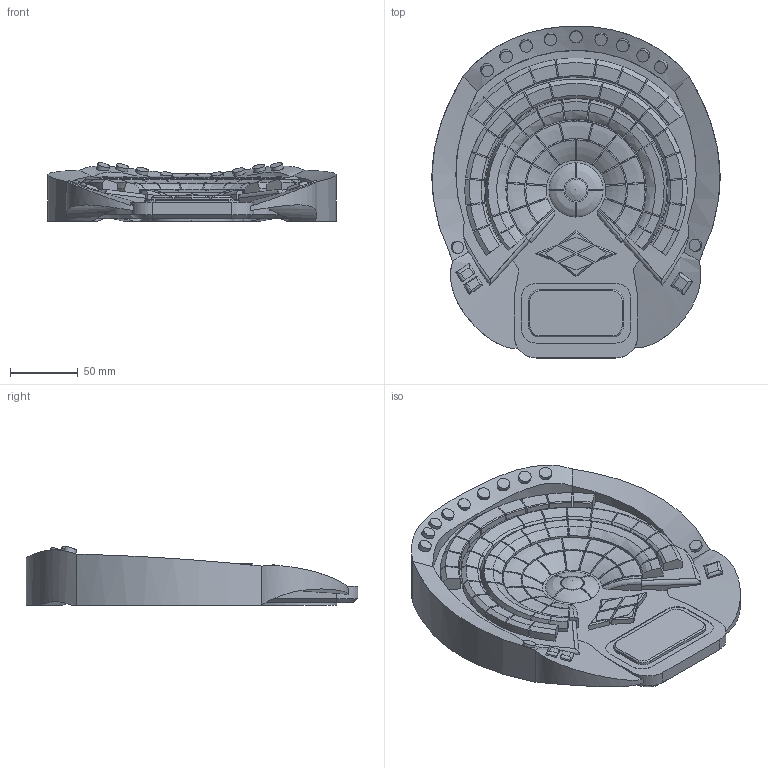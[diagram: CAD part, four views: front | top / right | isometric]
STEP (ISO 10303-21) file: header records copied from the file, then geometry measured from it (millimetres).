
FILE_DESCRIPTION(('FreeCAD Model'),'2;1');
FILE_NAME('Open CASCADE Shape Model','2023-01-21T12:00:18',('Author'),( ''),'Open CASCADE STEP processor 7.6','FreeCAD','Unknown');
FILE_SCHEMA(('AUTOMOTIVE_DESIGN { 1 0 10303 214 1 1 1 1 }'));
Products named in the file (1): Body
Bounding box: 212.64 x 244.98 x 43.37 mm (x, y, z)
Volume: 860717.3 mm3; surface area: 149412.7 mm2
Topology: 1 solids, 1 shells, 646 faces, 1660 edges, 1071 vertices
Faces by surface type: plane 298, cylinder 157, cone 111, bspline 50, revolution 25, extrusion 4, sphere 1
Full cylindrical faces by diameter (mm): 9 x11, 16 x1, 18 x1, 60 x1
Entity records: 68212 total; most frequent: CARTESIAN_POINT 37413, DIRECTION 4947, ORIENTED_EDGE 3320, PCURVE 3318, DEFINITIONAL_REPRESENTATION 3318, VECTOR 2373, LINE 2369, B_SPLINE_CURVE_WITH_KNOTS 1734
